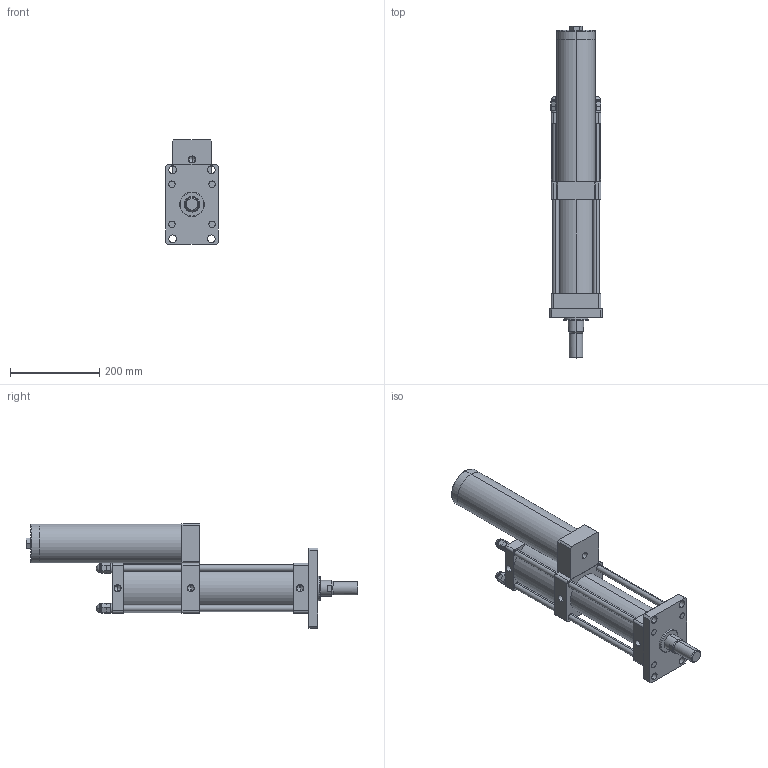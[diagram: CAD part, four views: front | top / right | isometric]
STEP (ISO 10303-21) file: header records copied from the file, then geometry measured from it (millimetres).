
FILE_DESCRIPTION (( 'STEP AP203' ), '1' );
FILE_NAME ('MPT-80-150-5-8T.STEP', '2016-03-11T03:35:04', ( 'WIN' ), ( '' ), 'SwSTEP 2.0', 'SolidWorks 2014', '' );
FILE_SCHEMA (( 'CONFIG_CONTROL_DESIGN' ));
Length unit declared in the file: millimetre
Products named in the file (1): MPT-80-150-5-8T
Bounding box: 118 x 745 x 235 mm (x, y, z)
Volume: 5196873.7 mm3; surface area: 674182.6 mm2
Topology: 20 solids, 20 shells, 400 faces, 968 edges, 562 vertices
Faces by surface type: plane 187, cylinder 90, torus 48, bspline 48, cone 27
Entity records: 12732 total; most frequent: CARTESIAN_POINT 3707, DIRECTION 1901, ORIENTED_EDGE 1804, EDGE_CURVE 902, AXIS2_PLACEMENT_3D 700, VERTEX_POINT 562, VECTOR 501, LINE 501
